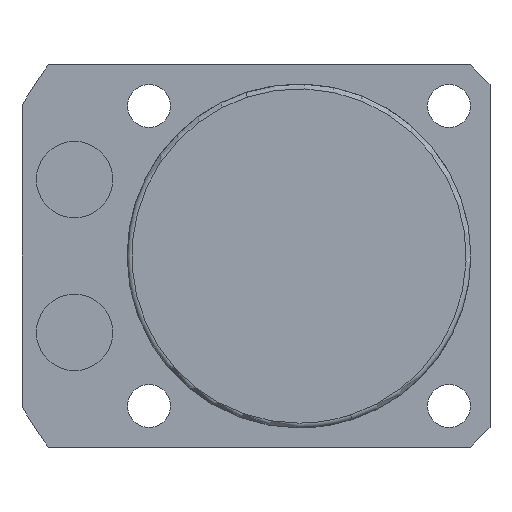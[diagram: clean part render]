
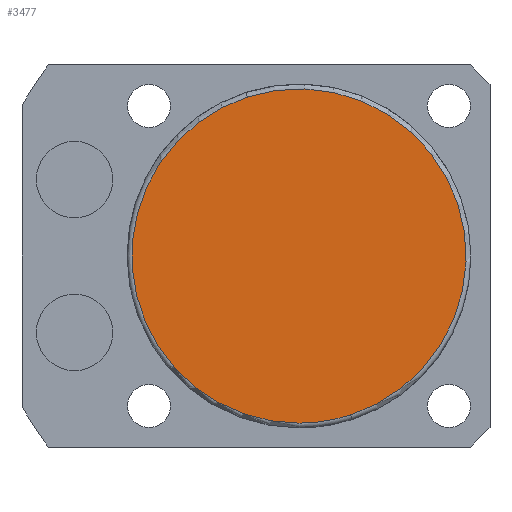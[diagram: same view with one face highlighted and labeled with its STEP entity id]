
A CAD part, front view. The second image highlights one B-rep face of the part: STEP entity #3477.
In plain terms, the highlighted planar face has unit normal (0, -1, 0).
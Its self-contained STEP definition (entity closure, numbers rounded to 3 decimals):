
#3443=CARTESIAN_POINT('',(0.0,-45.5,-17.5));
#3444=VERTEX_POINT('',#3443);
#3445=CARTESIAN_POINT('',(5.408,-45.5,-16.643));
#3446=VERTEX_POINT('',#3445);
#3447=CARTESIAN_POINT('',(0.0,-45.5,0.0));
#3448=DIRECTION('',(0.0,-1.0,0.0));
#3449=DIRECTION('',(0.0,0.0,-1.0));
#3450=AXIS2_PLACEMENT_3D('',#3447,#3448,#3449);
#3451=CIRCLE('',#3450,17.5);
#3452=EDGE_CURVE('no 2311',#3444,#3446,#3451,.T.);
#3453=ORIENTED_EDGE('',*,*,#3452,.T.);
#3454=CARTESIAN_POINT('',(-5.408,-45.5,16.643));
#3455=VERTEX_POINT('',#3454);
#3456=CARTESIAN_POINT('',(0.0,-45.5,0.0));
#3457=DIRECTION('',(0.0,-1.0,0.0));
#3458=DIRECTION('',(0.0,0.0,-1.0));
#3459=AXIS2_PLACEMENT_3D('',#3456,#3457,#3458);
#3460=CIRCLE('',#3459,17.5);
#3461=EDGE_CURVE('no 2317',#3446,#3455,#3460,.T.);
#3462=ORIENTED_EDGE('',*,*,#3461,.T.);
#3463=CARTESIAN_POINT('',(0.0,-45.5,0.0));
#3464=DIRECTION('',(0.0,-1.0,0.0));
#3465=DIRECTION('',(0.0,0.0,-1.0));
#3466=AXIS2_PLACEMENT_3D('',#3463,#3464,#3465);
#3467=CIRCLE('',#3466,17.5);
#3468=EDGE_CURVE('no 2321',#3455,#3444,#3467,.T.);
#3469=ORIENTED_EDGE('',*,*,#3468,.T.);
#3470=EDGE_LOOP('',(#3453,#3462,#3469));
#3471=FACE_OUTER_BOUND('',#3470,.T.);
#3472=CARTESIAN_POINT('',(0.0,-45.5,0.0));
#3473=DIRECTION('',(0.0,-1.0,0.0));
#3474=DIRECTION('',(0.0,0.0,-1.0));
#3475=AXIS2_PLACEMENT_3D('',#3472,#3473,#3474);
#3476=PLANE('',#3475);
#3477=ADVANCED_FACE('no 2302',(#3471),#3476,.T.);
